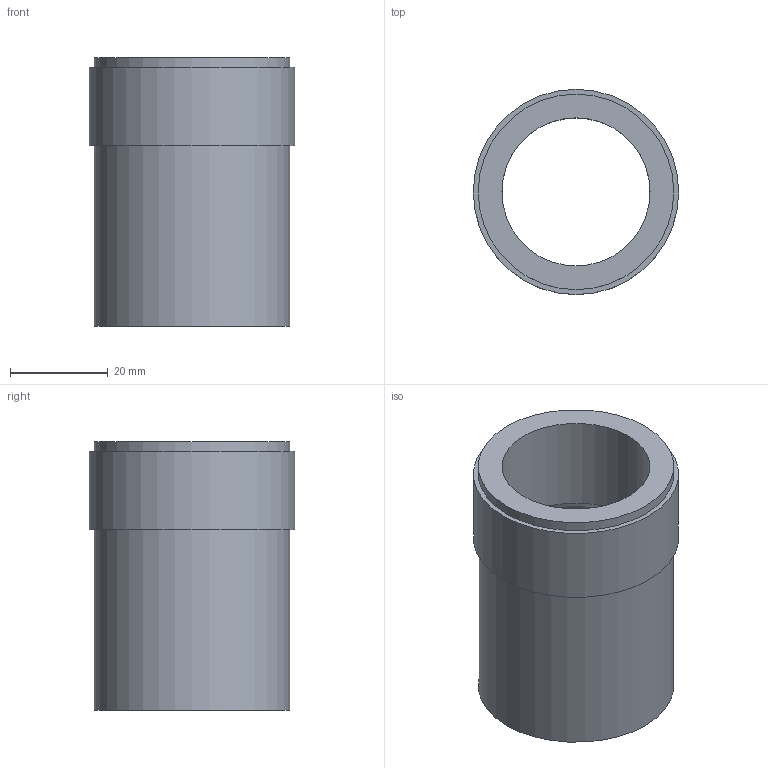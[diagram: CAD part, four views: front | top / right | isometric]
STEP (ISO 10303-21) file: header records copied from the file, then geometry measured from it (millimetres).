
FILE_DESCRIPTION(/* description */ (''),/* implementation_level */ '2;1');
FILE_NAME(/* name */ 'Z:\Geberit\Export\NewStep\360721.stp',/* time_stamp */ '2014-04-01T21:02:03+02:00',/* author */ ('nelson'),/* organization */ (''),/* preprocessor_version */ 'ST-DEVELOPER v15.2',/* originating_system */ 'Autodesk Inventor 2014',/* authorisation */ '');
FILE_SCHEMA (('AUTOMOTIVE_DESIGN { 1 0 10303 214 3 1 1 }'));
Length unit declared in the file: millimetre
Products named in the file (1): 360721
Bounding box: 42 x 42 x 55 mm (x, y, z)
Volume: 25199.3 mm3; surface area: 13839.5 mm2
Topology: 1 solids, 1 shells, 10 faces, 20 edges, 14 vertices
Faces by surface type: cylinder 5, plane 4, torus 1
Full cylindrical faces by diameter (mm): 30.291 x1, 34 x1, 40 x2, 42 x1
Entity records: 239 total; most frequent: DIRECTION 42, CARTESIAN_POINT 31, AXIS2_PLACEMENT_3D 21, EDGE_LOOP 20, ORIENTED_EDGE 20, FACE_BOUND 13, CIRCLE 10, VERTEX_POINT 10
